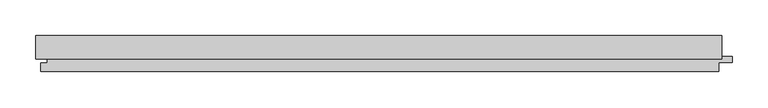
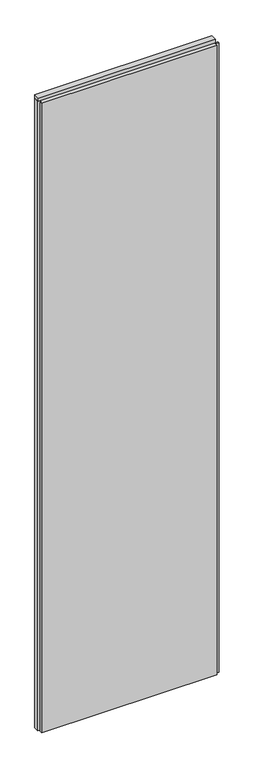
"""IFC4 building model written with IfcOpenShell, lengths in millimetres: plate geometry, Trimo_Qbiss Screen_Normal Panel-VERTICAL : HR - FB-F."""

from ifc_helpers import new_model, si_unit, frame, origin, place, context, project, spatial, polyline, outline, extrude, source, transform, mapped, element, save


def plate_7573b3fd(model_context):
    return source(origin(), model_context, "Body", "SweptSolid", [
        extrude(outline(polyline([(-477.0, 93.9), (-477.0, 126.0), (477.0, 126.0), (477.0, 93.9), (-477.0, 93.9)])), frame((0.0, 0.0, 3590.5), z_axis=(0.0, 0.0, 1.0), x_axis=(1.0, 0.0, 0.0)), (0.0, 0.0, 1.0), 19.0),
        extrude(outline(polyline([(473.0, 97.0), (491.5, 97.0), (491.5, 89.0), (473.0, 89.0), (473.0, 76.0), (-470.0, 76.0), (-470.0, 88.0), (-461.5, 88.0), (-461.5, 98.0), (-477.0, 98.0), (-477.0, 126.0), (473.0, 126.0), (473.0, 97.0)])), frame((0.0, 0.0, 12.5), z_axis=(0.0, 0.0, 1.0), x_axis=(1.0, 0.0, 0.0)), (0.0, 0.0, 1.0), 3575.0),
    ])


if __name__ == "__main__":
    model = new_model("IFC4")
    model_context = context("Model", 3, world=origin())
    ifc_project = project(units=[si_unit("LENGTHUNIT", "METRE", prefix="MILLI")], contexts=[model_context])
    site = spatial("IfcSite", under=ifc_project)
    building = spatial("IfcBuilding", under=site)
    placement = place(None, origin())
    plate_shape = plate_7573b3fd(model_context)
    element("IfcPlate", 1, ObjectType="Trimo_Qbiss Screen_Normal Panel-VERTICAL : HR - FB-F", at=placement, inside=building, context=model_context, shape_type="MappedRepresentation", body=[
        mapped(plate_shape, transform((0.0, 0.0, 0.0), x_axis=(1.0, 0.0, 0.0), y_axis=(0.0, 1.0, 0.0), z_axis=(0.0, 0.0, 1.0))),
    ])
    save(model, "model.ifc")
